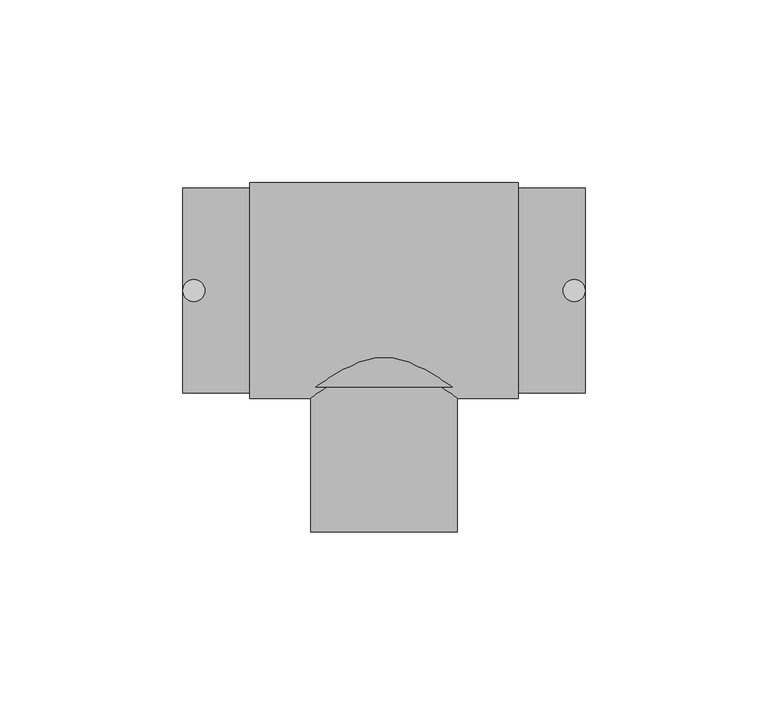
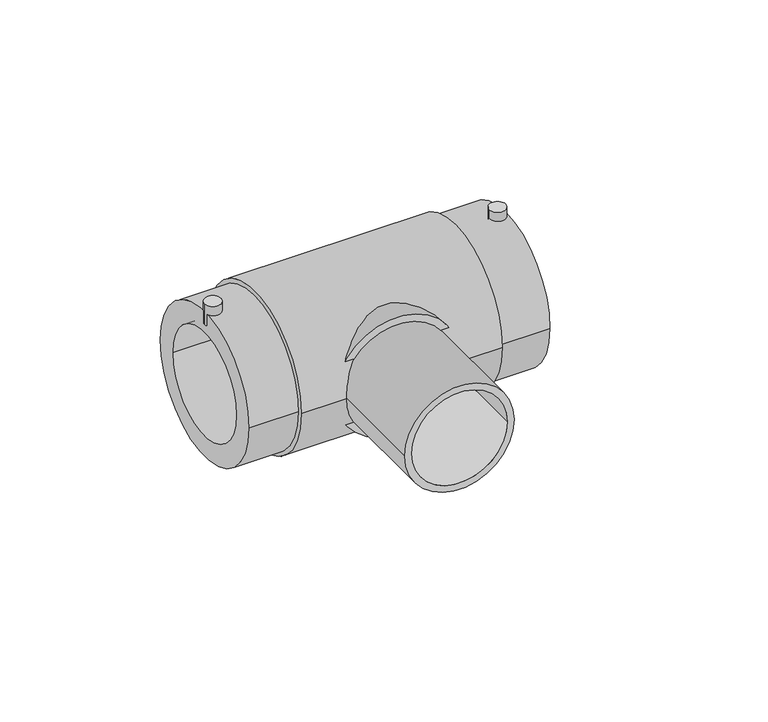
"""IFC4 building model written with IfcOpenShell, lengths in millimetres: pipe fitting geometry, EGB_VASEN_ PPR_Te electrosoldable WXRD300_Te reducida electrosoldable WXRD310 : Te electrosoldable."""

from ifc_helpers import new_model, si_unit, point, frame, frame_2d, origin, origin_2d, place, context, project, spatial, circle_curve, trimmed, segment, composite_curve, outline, extrude, source, transform, mapped, element, save


def pipe_fitting_8a6e6f6b(model_context):
    return source(origin(), model_context, "Body", "SweptSolid", [
        extrude(outline(composite_curve([segment(trimmed(circle_curve(frame_2d((-52.0, 0.0)), 3.0), [point((-55.0, 0.0))], [point((-49.0, 0.0))], False, "CARTESIAN"), True, "CONTINUOUS"), segment(trimmed(circle_curve(frame_2d((-52.0, 0.0)), 3.0), [point((-49.0, 0.0))], [point((-55.0, 0.0))], False, "CARTESIAN"), True, "CONTINUOUS")], self_intersect=False)), frame((0.0, 0.0, 23.0), z_axis=(0.0, 0.0, 1.0), x_axis=(1.0, 0.0, 0.0)), (0.0, 0.0, 1.0), 8.0),
        extrude(outline(composite_curve([segment(trimmed(circle_curve(frame_2d((52.0, 0.0)), 3.0), [point((49.0, 0.0))], [point((55.0, 0.0))], False, "CARTESIAN"), True, "CONTINUOUS"), segment(trimmed(circle_curve(frame_2d((52.0, 0.0)), 3.0), [point((55.0, 0.0))], [point((49.0, 0.0))], False, "CARTESIAN"), True, "CONTINUOUS")], self_intersect=False)), frame((0.0, 0.0, 23.0), z_axis=(0.0, 0.0, 1.0), x_axis=(1.0, 0.0, 0.0)), (0.0, 0.0, 1.0), 8.0),
        extrude(outline(composite_curve([segment(trimmed(circle_curve(origin_2d(), 22.5), [point((0.0, 22.5))], [point((0.0, -22.5))], False, "CARTESIAN"), True, "CONTINUOUS"), segment(trimmed(circle_curve(origin_2d(), 22.5), [point((0.0, -22.5))], [point((0.0, 22.5))], False, "CARTESIAN"), True, "CONTINUOUS")], self_intersect=False)), frame((0.0, -26.4, 0.0), z_axis=(0.0, 1.0, 0.0), x_axis=(0.0, 0.0, 1.0)), (0.0, 0.0, 1.0), 26.4),
        extrude(outline(composite_curve([segment(trimmed(circle_curve(origin_2d(), 20.0), [point((0.0, -20.0))], [point((0.0, 20.0))], False, "CARTESIAN"), True, "CONTINUOUS"), segment(trimmed(circle_curve(origin_2d(), 20.0), [point((0.0, 20.0))], [point((0.0, -20.0))], False, "CARTESIAN"), True, "CONTINUOUS")], self_intersect=False), holes=[composite_curve([segment(trimmed(circle_curve(origin_2d(), 17.5), [point((0.0, -17.5))], [point((0.0, 17.5))], True, "CARTESIAN"), True, "CONTINUOUS"), segment(trimmed(circle_curve(origin_2d(), 17.5), [point((0.0, 17.5))], [point((0.0, -17.5))], True, "CARTESIAN"), True, "CONTINUOUS")], self_intersect=False)]), frame((0.0, -66.0, 0.0), z_axis=(0.0, 1.0, 0.0), x_axis=(0.0, 0.0, 1.0)), (0.0, 0.0, 1.0), 39.6),
        extrude(outline(composite_curve([segment(trimmed(circle_curve(origin_2d(), 29.5), [point((-29.5, 0.0))], [point((29.5, 0.0))], False, "CARTESIAN"), True, "CONTINUOUS"), segment(trimmed(circle_curve(origin_2d(), 29.5), [point((29.5, 0.0))], [point((-29.5, 0.0))], False, "CARTESIAN"), True, "CONTINUOUS")], self_intersect=False), holes=[composite_curve([segment(trimmed(circle_curve(origin_2d(), 20.0), [point((-20.0, 0.0))], [point((20.0, 0.0))], True, "CARTESIAN"), True, "CONTINUOUS"), segment(trimmed(circle_curve(origin_2d(), 20.0), [point((20.0, 0.0))], [point((-20.0, 0.0))], True, "CARTESIAN"), True, "CONTINUOUS")], self_intersect=False)]), frame((-36.6666667, 0.0, 0.0), z_axis=(1.0, 0.0, 0.0), x_axis=(0.0, 1.0, 0.0)), (0.0, 0.0, 1.0), 73.3333333),
        extrude(outline(composite_curve([segment(trimmed(circle_curve(origin_2d(), 28.0), [point((-28.0, 0.0))], [point((28.0, 0.0))], False, "CARTESIAN"), True, "CONTINUOUS"), segment(trimmed(circle_curve(origin_2d(), 28.0), [point((28.0, 0.0))], [point((-28.0, 0.0))], False, "CARTESIAN"), True, "CONTINUOUS")], self_intersect=False), holes=[composite_curve([segment(trimmed(circle_curve(origin_2d(), 20.0), [point((-20.0, 0.0))], [point((20.0, 0.0))], True, "CARTESIAN"), True, "CONTINUOUS"), segment(trimmed(circle_curve(origin_2d(), 20.0), [point((20.0, 0.0))], [point((-20.0, 0.0))], True, "CARTESIAN"), True, "CONTINUOUS")], self_intersect=False)]), frame((-55.0, 0.0, 0.0), z_axis=(1.0, 0.0, 0.0), x_axis=(0.0, 1.0, 0.0)), (0.0, 0.0, 1.0), 110.0),
    ])


if __name__ == "__main__":
    model = new_model("IFC4")
    model_context = context("Model", 3, world=origin())
    ifc_project = project(units=[si_unit("LENGTHUNIT", "METRE", prefix="MILLI")], contexts=[model_context])
    site = spatial("IfcSite", under=ifc_project)
    building = spatial("IfcBuilding", under=site)
    placement = place(None, origin())
    pipe_fitting_shape = pipe_fitting_8a6e6f6b(model_context)
    element("IfcPipeFitting", 1, ObjectType="EGB_VASEN_ PPR_Te electrosoldable WXRD300_Te reducida electrosoldable WXRD310 : Te electrosoldable", at=placement, inside=building, context=model_context, shape_type="MappedRepresentation", body=[
        mapped(pipe_fitting_shape, transform((0.0, 0.0, 0.0), x_axis=(1.0, 0.0, 0.0), y_axis=(0.0, 1.0, 0.0), z_axis=(0.0, 0.0, 1.0))),
    ])
    save(model, "model.ifc")
